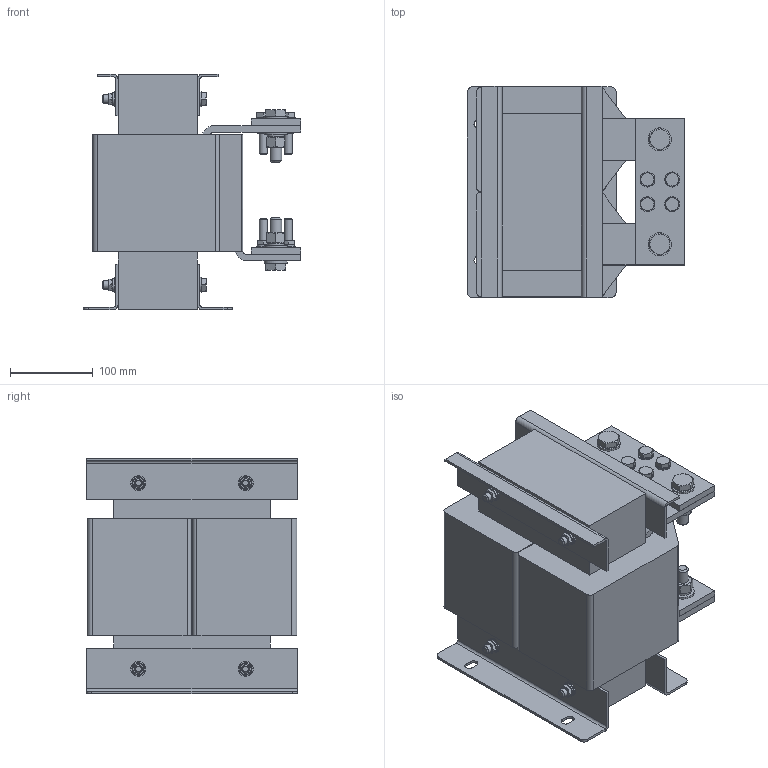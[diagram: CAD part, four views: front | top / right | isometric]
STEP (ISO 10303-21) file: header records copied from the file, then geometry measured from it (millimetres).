
FILE_DESCRIPTION(('STEP AP203'), '1');
FILE_NAME('酿铖皴朦 _ 酿铖皴朦 钿眍羿珥', '', ('UNSPECIFIED'), ('UNSPECIFIED'), 'C3D Converter', 'C3D Toolkit', '');
FILE_SCHEMA(('CONFIG_CONTROL_DESIGN'));
Length unit declared in the file: millimetre
Products named in the file (11): Дроссель DC
Assembly tree (80 placements, depth 2):
  Дроссель DC
    (unnamed)  x8
    (unnamed)  x4
    (unnamed)  x4
    (unnamed)  x4
    (unnamed)  x24
    (unnamed)  x12
    (unnamed)  x8
    (unnamed)  x8
    (unnamed)  x4
    (unnamed)  x4
Bounding box: 263 x 255 x 285 mm (x, y, z)
Volume: 9498604.6 mm3; surface area: 707153.5 mm2
Topology: 87 solids, 87 shells, 916 faces, 1946 edges, 1228 vertices
Faces by surface type: plane 536, cylinder 208, cone 156, torus 16
Full cylindrical faces by diameter (mm): 8.376 x12, 10 x12, 10.5 x24, 11 x20, 11.835 x4, 14 x12, 14.63 x8, 15 x8, 18 x24, 24 x4, 28 x8
Entity records: 14706 total; most frequent: CARTESIAN_POINT 4244, DIRECTION 1518, ORIENTED_EDGE 1296, EDGE_CURVE 648, AXIS2_PLACEMENT_3D 578, VERTEX_POINT 456, EDGE_LOOP 428, LINE 362
